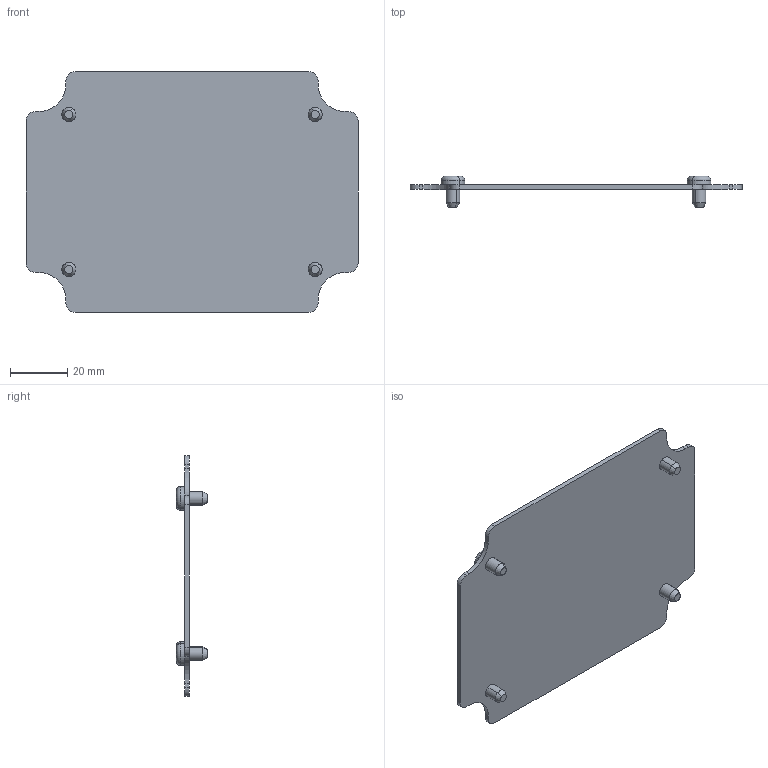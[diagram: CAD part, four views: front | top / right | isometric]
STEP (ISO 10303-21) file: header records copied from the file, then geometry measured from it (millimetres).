
FILE_DESCRIPTION (( 'STEP AP214' ), '1' );
FILE_NAME ('HN-45default.STEP', '2025-12-03T20:27:02', ( '' ), ( '' ), 'SwSTEP 2.0', 'SolidWorks 2025', '' );
FILE_SCHEMA (( 'AUTOMOTIVE_DESIGN' ));
Length unit declared in the file: inch
Products named in the file (3): SCREWS-032_SCREWS-032; HN-45P_default; HN-45default
Assembly tree (5 placements, depth 2):
  HN-45default
    HN-45P_default
    SCREWS-032_SCREWS-032  x4
Bounding box: 115.57 x 10.86 x 83.82 mm (x, y, z)
Volume: 15157.8 mm3; surface area: 19696.5 mm2
Topology: 5 solids, 5 shells, 146 faces, 368 edges, 240 vertices
Faces by surface type: plane 94, cylinder 36, cone 8, torus 8
Entity records: 2068 total; most frequent: DIRECTION 358, CARTESIAN_POINT 342, ORIENTED_EDGE 328, EDGE_CURVE 164, AXIS2_PLACEMENT_3D 124, VECTOR 110, LINE 110, VERTEX_POINT 108
